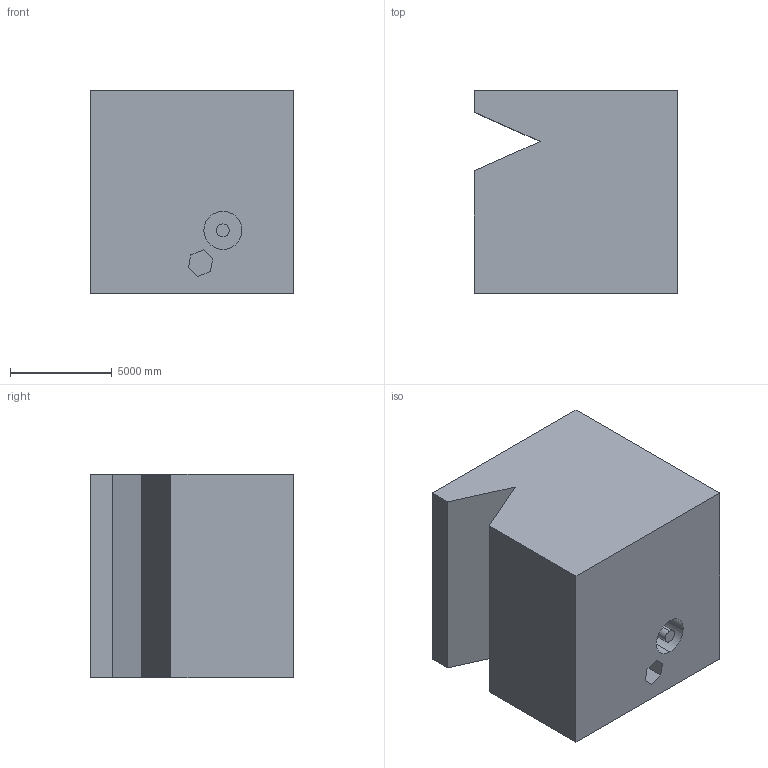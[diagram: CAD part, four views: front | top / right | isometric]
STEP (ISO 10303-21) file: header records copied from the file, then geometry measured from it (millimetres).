
FILE_DESCRIPTION (( 'STEP AP203' ), '1' );
FILE_NAME ('122.STEP', '2022-09-06T15:08:16', ( 'user' ), ( '' ), 'SwSTEP 2.0', 'SolidWorks 2021', '' );
FILE_SCHEMA (( 'CONFIG_CONTROL_DESIGN' ));
Length unit declared in the file: centimetre
Products named in the file (1): 122
Bounding box: 10000 x 10000 x 10000 mm (x, y, z)
Volume: 941318099661.1 mm3; surface area: 672372556.2 mm2
Topology: 1 solids, 1 shells, 22 faces, 51 edges, 34 vertices
Faces by surface type: plane 18, cylinder 4
Entity records: 700 total; most frequent: CARTESIAN_POINT 108, DIRECTION 105, ORIENTED_EDGE 102, EDGE_CURVE 51, VECTOR 43, LINE 43, VERTEX_POINT 34, AXIS2_PLACEMENT_3D 31
